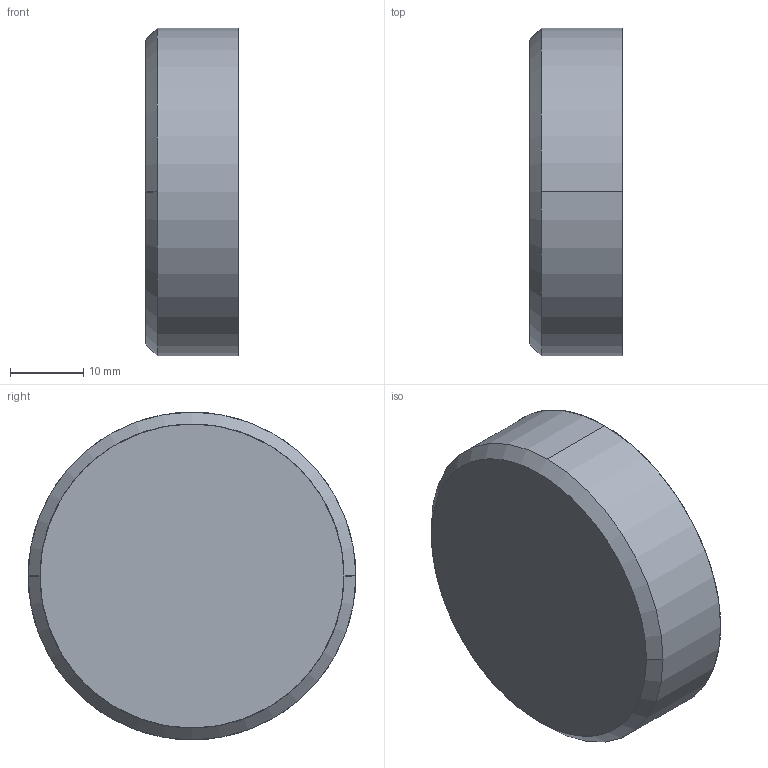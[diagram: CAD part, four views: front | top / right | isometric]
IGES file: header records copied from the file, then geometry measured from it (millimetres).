
Start section: SolidWorks IGES file using analytic representation for surfaces
Global section: file name: S:\Product Visuals\FILES FOR PUBLICATION\SOLID MODELS FOR PUBLICATION\60-restored\igs\cap-check-plug\60l-cap-check-plug.IGS; native system: SolidWorks 2012; preprocessor: SolidWorks 2012; author: Mike.Simmons; date: 121129.141742; units: inch
Bounding box: 12.73 x 44.7 x 44.7 mm (x, y, z)
Surface area: 5185.5 mm2 (no closed solid volume)
Topology: 0 solids, 0 shells, 18 faces, 436 edges, 436 vertices
Faces by surface type: revolution 12, bspline 6
